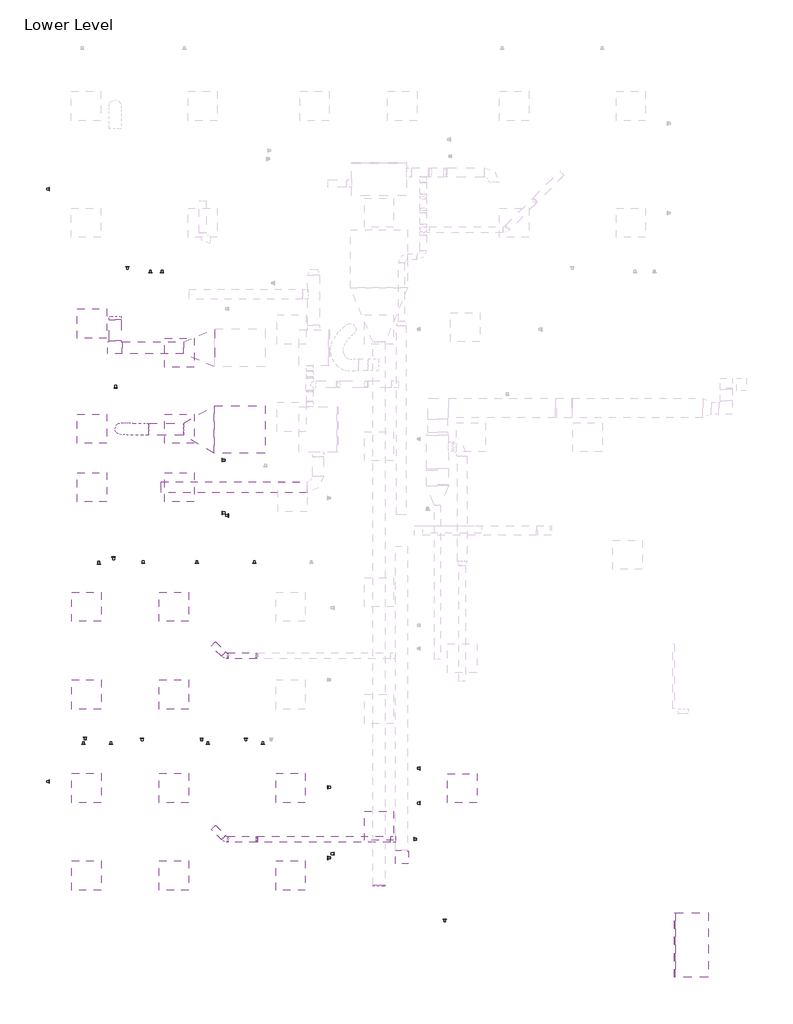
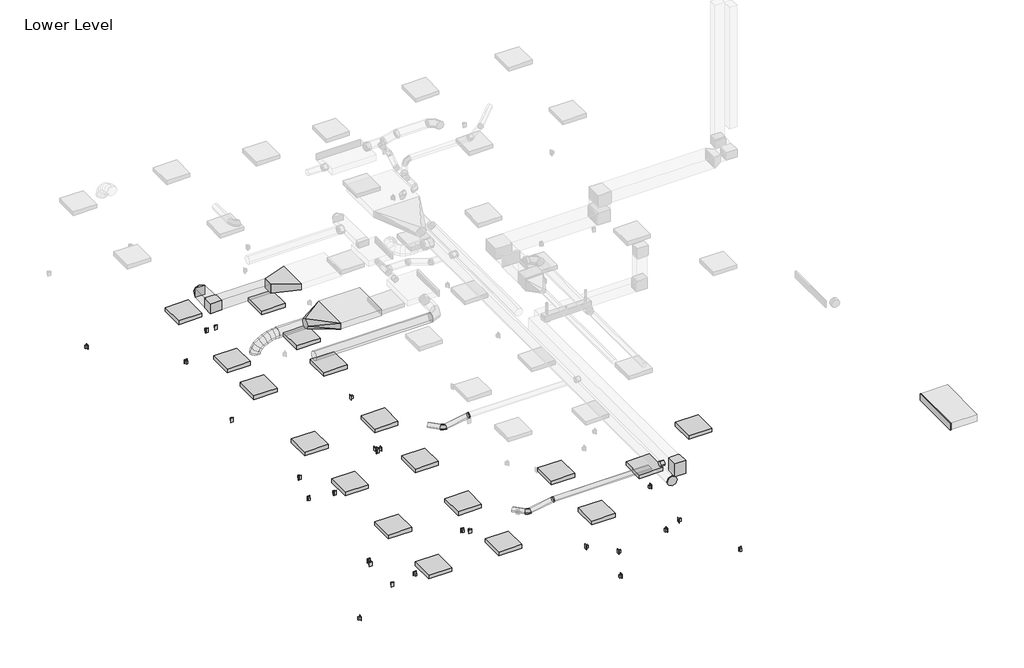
# One storey, part 1 of 4: 23 proxies, 18 light fixtures, 12 duct fittings, 12 duct segments, 6 switching devices.
"""IFC4 building model written with IfcOpenShell, lengths in millimetres."""

from ifc_helpers import new_model, si_unit, point, frame, frame_2d, origin, place, context, project, spatial, polyline, circle_curve, ellipse_curve, trimmed, segment, composite_curve, outline, extrude, transform, mapped, element, save
from ifc_brep_helpers import plane_surface, cylinder_surface, advanced_brep
from components import duplex_receptacle_countertop_10251bba, rectangular_elbow_mitered_standard_7281579c, rectangular_endcap_standard_3ad2bc23, rectangular_tee_standard_e1dfbba3, rectangular_transition_angle_45_degree_29acac8a, rectangular_to_round_transition_angle_45_degree_c2b93fa6, rectangular_to_round_transition_angle_60_degree_fd6f6933, round_elbow_1_d_3b39a11e, round_elbow_1_d_92ecc58d, round_endcap_standard_477732a8, round_takeoff_standard_7fe2b2d5, troffer_corner_insert_2x2_3lamp_e67c7f8f

model = new_model("IFC4")

# Units and contexts
model_context = context("Model", 3, world=origin())
ifc_project = project(units=[si_unit("LENGTHUNIT", "METRE", prefix="MILLI")], contexts=[model_context])

# Site, building, storey
site = spatial("IfcSite", under=ifc_project)
building = spatial("IfcBuilding", under=site)
storey = spatial("IfcBuildingStorey", under=building, Name="Lower Level", Elevation=29972.0)

# Proxies
placement = place(None, origin())
duplex_receptacle_countertop_shape = duplex_receptacle_countertop_10251bba(model_context)
element("IfcBuildingElementProxy", 1, Name="Duplex Receptacle : Countertop", ObjectType="Duplex Receptacle : Countertop", at=placement, inside=storey, context=model_context, shape_type="MappedRepresentation", body=[
    mapped(duplex_receptacle_countertop_shape, transform((-19781.0834068, -33.9304995, 31191.2), x_axis=(1.0, 0.0, 0.0), y_axis=(0.0, 0.0, 1.0), z_axis=(0.0, -1.0, 0.0))),
])
element("IfcBuildingElementProxy", 2, Name="Duplex Receptacle : Countertop", ObjectType="Duplex Receptacle : Countertop", at=placement, inside=storey, context=model_context, shape_type="MappedRepresentation", body=[
    mapped(duplex_receptacle_countertop_shape, transform((-17180.480491, -33.9304995, 31191.2), x_axis=(1.0, 0.0, 0.0), y_axis=(0.0, 0.0, 1.0), z_axis=(0.0, -1.0, 0.0))),
])
element("IfcBuildingElementProxy", 3, Name="Duplex Receptacle : Countertop", ObjectType="Duplex Receptacle : Countertop", at=placement, inside=storey, context=model_context, shape_type="MappedRepresentation", body=[
    mapped(duplex_receptacle_countertop_shape, transform((-17312.5285453, 89.8945005, 31191.2), x_axis=(-1.0, 0.0, 0.0), y_axis=(0.0, 0.0, 1.0), z_axis=(0.0, 1.0, 0.0))),
])
element("IfcBuildingElementProxy", 4, Name="Duplex Receptacle : Countertop", ObjectType="Duplex Receptacle : Countertop", at=placement, inside=storey, context=model_context, shape_type="MappedRepresentation", body=[
    mapped(duplex_receptacle_countertop_shape, transform((-19748.0248951, 108.9445005, 31191.2), x_axis=(-1.0, 0.0, 0.0), y_axis=(0.0, 0.0, 1.0), z_axis=(0.0, 1.0, 0.0))),
])
element("IfcBuildingElementProxy", 5, Name="Duplex Receptacle : Countertop", ObjectType="Duplex Receptacle : Countertop", at=placement, inside=storey, context=model_context, shape_type="MappedRepresentation", body=[
    mapped(duplex_receptacle_countertop_shape, transform((-19461.5177943, 3728.4445005, 31191.2), x_axis=(1.0, 0.0, 0.0), y_axis=(0.0, 0.0, 1.0), z_axis=(0.0, -1.0, 0.0))),
])
element("IfcBuildingElementProxy", 6, Name="Duplex Receptacle : Countertop", ObjectType="Duplex Receptacle : Countertop", at=placement, inside=storey, context=model_context, shape_type="MappedRepresentation", body=[
    mapped(duplex_receptacle_countertop_shape, transform((-17411.8900725, 3747.4945005, 31191.2), x_axis=(1.0, 0.0, 0.0), y_axis=(0.0, 0.0, 1.0), z_axis=(0.0, -1.0, 0.0))),
])
element("IfcBuildingElementProxy", 7, Name="Duplex Receptacle : GFCI", ObjectType="Duplex Receptacle : GFCI", at=placement, inside=storey, context=model_context, shape_type="MappedRepresentation", body=[
    mapped(duplex_receptacle_countertop_shape, transform((-18382.2954607, 9811.7445005, 31191.2), x_axis=(1.0, 0.0, 0.0), y_axis=(0.0, 0.0, 1.0), z_axis=(0.0, -1.0, 0.0))),
])
element("IfcBuildingElementProxy", 8, Name="Duplex Receptacle : Standard", ObjectType="Duplex Receptacle : Standard", at=placement, inside=storey, context=model_context, shape_type="MappedRepresentation", body=[
    mapped(duplex_receptacle_countertop_shape, transform((-12749.8454607, -1263.9483179, 30429.2), x_axis=(0.0, 1.0, 0.0), y_axis=(0.0, 0.0, 1.0), z_axis=(1.0, 0.0, 0.0))),
])
element("IfcBuildingElementProxy", 9, Name="Duplex Receptacle : Standard", ObjectType="Duplex Receptacle : Standard", at=placement, inside=storey, context=model_context, shape_type="MappedRepresentation", body=[
    mapped(duplex_receptacle_countertop_shape, transform((-20500.0204607, -814.4593573, 30429.2), x_axis=(0.0, 1.0, 0.0), y_axis=(0.0, 0.0, 1.0), z_axis=(1.0, 0.0, 0.0))),
])
element("IfcBuildingElementProxy", 10, Name="Duplex Receptacle : Standard", ObjectType="Duplex Receptacle : Standard", at=placement, inside=storey, context=model_context, shape_type="MappedRepresentation", body=[
    mapped(duplex_receptacle_countertop_shape, transform((-14673.8954607, -933.3632015, 30429.2), x_axis=(0.0, -1.0, 0.0), y_axis=(0.0, 0.0, 1.0), z_axis=(-1.0, 0.0, 0.0))),
])
element("IfcBuildingElementProxy", 11, Name="Duplex Receptacle : Standard", ObjectType="Duplex Receptacle : Standard", at=placement, inside=storey, context=model_context, shape_type="MappedRepresentation", body=[
    mapped(duplex_receptacle_countertop_shape, transform((-19208.069205, -33.9304995, 30429.2), x_axis=(1.0, 0.0, 0.0), y_axis=(0.0, 0.0, 1.0), z_axis=(0.0, -1.0, 0.0))),
])
element("IfcBuildingElementProxy", 12, Name="Duplex Receptacle : Standard", ObjectType="Duplex Receptacle : Standard", at=placement, inside=storey, context=model_context, shape_type="MappedRepresentation", body=[
    mapped(duplex_receptacle_countertop_shape, transform((-16034.4520874, -33.9304995, 30429.2), x_axis=(1.0, 0.0, 0.0), y_axis=(0.0, 0.0, 1.0), z_axis=(0.0, -1.0, 0.0))),
])
element("IfcBuildingElementProxy", 13, Name="Duplex Receptacle : Standard", ObjectType="Duplex Receptacle : Standard", at=placement, inside=storey, context=model_context, shape_type="MappedRepresentation", body=[
    mapped(duplex_receptacle_countertop_shape, transform((-18535.8794683, 3747.4945005, 30429.2), x_axis=(1.0, 0.0, 0.0), y_axis=(0.0, 0.0, 1.0), z_axis=(0.0, -1.0, 0.0))),
])
element("IfcBuildingElementProxy", 14, Name="Duplex Receptacle : Standard", ObjectType="Duplex Receptacle : Standard", at=placement, inside=storey, context=model_context, shape_type="MappedRepresentation", body=[
    mapped(duplex_receptacle_countertop_shape, transform((-16210.7641495, 3747.4945005, 30429.2), x_axis=(1.0, 0.0, 0.0), y_axis=(0.0, 0.0, 1.0), z_axis=(0.0, -1.0, 0.0))),
])
element("IfcBuildingElementProxy", 15, Name="Duplex Receptacle : Standard", ObjectType="Duplex Receptacle : Standard", at=placement, inside=storey, context=model_context, shape_type="MappedRepresentation", body=[
    mapped(duplex_receptacle_countertop_shape, transform((-18557.7324838, 89.8945005, 30429.2), x_axis=(-1.0, 0.0, 0.0), y_axis=(0.0, 0.0, 1.0), z_axis=(0.0, 1.0, 0.0))),
])
element("IfcBuildingElementProxy", 16, Name="Duplex Receptacle : Standard", ObjectType="Duplex Receptacle : Standard", at=placement, inside=storey, context=model_context, shape_type="MappedRepresentation", body=[
    mapped(duplex_receptacle_countertop_shape, transform((-16386.8902194, 89.8945005, 30429.2), x_axis=(-1.0, 0.0, 0.0), y_axis=(0.0, 0.0, 1.0), z_axis=(0.0, 1.0, 0.0))),
])
element("IfcBuildingElementProxy", 17, Name="Duplex Receptacle : Standard", ObjectType="Duplex Receptacle : Standard", at=placement, inside=storey, context=model_context, shape_type="MappedRepresentation", body=[
    mapped(duplex_receptacle_countertop_shape, transform((-16880.5204607, 4796.7788164, 30429.2), x_axis=(0.0, -1.0, 0.0), y_axis=(0.0, 0.0, 1.0), z_axis=(-1.0, 0.0, 0.0))),
])
element("IfcBuildingElementProxy", 18, Name="Duplex Receptacle : Standard", ObjectType="Duplex Receptacle : Standard", at=placement, inside=storey, context=model_context, shape_type="MappedRepresentation", body=[
    mapped(duplex_receptacle_countertop_shape, transform((-19152.7856934, 3871.3195005, 30429.2), x_axis=(-1.0, 0.0, 0.0), y_axis=(0.0, 0.0, 1.0), z_axis=(0.0, 1.0, 0.0))),
])
element("IfcBuildingElementProxy", 19, Name="Duplex Receptacle : Standard", ObjectType="Duplex Receptacle : Standard", at=placement, inside=storey, context=model_context, shape_type="MappedRepresentation", body=[
    mapped(duplex_receptacle_countertop_shape, transform((-19108.7076778, 7408.2695005, 30429.2), x_axis=(1.0, 0.0, 0.0), y_axis=(0.0, 0.0, 1.0), z_axis=(0.0, -1.0, 0.0))),
])
element("IfcBuildingElementProxy", 20, Name="Duplex Receptacle : Standard", ObjectType="Duplex Receptacle : Standard", at=placement, inside=storey, context=model_context, shape_type="MappedRepresentation", body=[
    mapped(duplex_receptacle_countertop_shape, transform((-16756.6954607, 4741.681297, 30429.2), x_axis=(0.0, 1.0, 0.0), y_axis=(0.0, 0.0, 1.0), z_axis=(1.0, 0.0, 0.0))),
])
element("IfcBuildingElementProxy", 21, Name="Duplex Receptacle : Standard", ObjectType="Duplex Receptacle : Standard", at=placement, inside=storey, context=model_context, shape_type="MappedRepresentation", body=[
    mapped(duplex_receptacle_countertop_shape, transform((-20500.0204607, 11561.2553968, 30429.2), x_axis=(0.0, 1.0, 0.0), y_axis=(0.0, 0.0, 1.0), z_axis=(1.0, 0.0, 0.0))),
])
element("IfcBuildingElementProxy", 22, Name="Duplex Receptacle : Standard", ObjectType="Duplex Receptacle : Standard", at=placement, inside=storey, context=model_context, shape_type="MappedRepresentation", body=[
    mapped(duplex_receptacle_countertop_shape, transform((-18861.9549075, 9935.5695005, 30429.2), x_axis=(-1.0, 0.0, 0.0), y_axis=(0.0, 0.0, 1.0), z_axis=(0.0, 1.0, 0.0))),
])
element("IfcBuildingElementProxy", 23, Name="Duplex Receptacle : Standard", ObjectType="Duplex Receptacle : Standard", at=placement, inside=storey, context=model_context, shape_type="MappedRepresentation", body=[
    mapped(duplex_receptacle_countertop_shape, transform((-14550.0704607, -2323.3194927, 30429.2), x_axis=(0.0, 1.0, 0.0), y_axis=(0.0, 0.0, 1.0), z_axis=(1.0, 0.0, 0.0))),
])

# Duct fittings
rectangular_elbow_mitered_standard_shape = rectangular_elbow_mitered_standard_7281579c(model_context)
element("IfcDuctFitting", 24, ObjectType="Rectangular Elbow - Mitered : Standard", at=placement, inside=storey, context=model_context, shape_type="MappedRepresentation", body=[
    mapped(rectangular_elbow_mitered_standard_shape, transform((-13138.544811, -2399.3054995, 33020.0), x_axis=(0.0, -1.0, 0.0), y_axis=(1.0, 0.0, 0.0), z_axis=(0.0, 0.0, 1.0))),
])
rectangular_endcap_standard_shape = rectangular_endcap_standard_3ad2bc23(model_context)
element("IfcDuctFitting", 25, ObjectType="Rectangular Endcap : Standard", at=placement, inside=storey, context=model_context, shape_type="MappedRepresentation", body=[
    mapped(rectangular_endcap_standard_shape, transform((-7413.4450089, -4228.1054995, 33617.69375), x_axis=(-1.0, 0.0, 0.0), y_axis=(0.0, -1.0, 0.0), z_axis=(0.0, 0.0, 1.0))),
])
rectangular_tee_standard_shape = rectangular_tee_standard_e1dfbba3(model_context)
element("IfcDuctFitting", 26, ObjectType="Rectangular Tee : Standard", at=placement, inside=storey, context=model_context, shape_type="MappedRepresentation", body=[
    mapped(rectangular_tee_standard_shape, transform((-19120.4829607, 8243.4520797, 33126.0036612), x_axis=(-0.9999999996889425, 0.0, 2.4942236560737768e-05), y_axis=(0.0, -1.0000000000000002, 0.0), z_axis=(2.4942236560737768e-05, 0.0, 0.9999999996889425))),
])
rectangular_transition_angle_45_degree_shape = rectangular_transition_angle_45_degree_29acac8a(model_context)
element("IfcDuctFitting", 27, ObjectType="Rectangular Transition - Angle : 45 Degree", at=placement, inside=storey, context=model_context, shape_type="MappedRepresentation", body=[
    mapped(rectangular_transition_angle_45_degree_shape, transform((-17043.5807568, 8243.4520797, 33125.965625), x_axis=(-0.9999999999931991, 0.0, 3.6880781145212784e-06), y_axis=(0.0, -1.0000000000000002, 0.0), z_axis=(3.6880781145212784e-06, 0.0, 0.9999999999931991))),
])
rectangular_to_round_transition_angle_45_degree_shape = rectangular_to_round_transition_angle_45_degree_c2b93fa6(model_context)
element("IfcDuctFitting", 28, ObjectType="Rectangular to Round Transition - Angle : 45 Degree", at=placement, inside=storey, context=model_context, shape_type="MappedRepresentation", body=[
    mapped(rectangular_to_round_transition_angle_45_degree_shape, transform((-19120.4829607, 8834.9338087, 33126.0036612), x_axis=(0.0, 1.0, 0.0), y_axis=(-1.0, 0.0, 0.0), z_axis=(0.0, 0.0, 1.0))),
])
rectangular_to_round_transition_angle_60_degree_shape = rectangular_to_round_transition_angle_60_degree_fd6f6933(model_context)
element("IfcDuctFitting", 29, ObjectType="Rectangular to Round Transition - Angle : 60 Degree", at=placement, inside=storey, context=model_context, shape_type="MappedRepresentation", body=[
    mapped(rectangular_to_round_transition_angle_60_degree_shape, transform((-17051.2248289, 6541.2842307, 33125.9381059), x_axis=(-0.9999999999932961, 0.0, 3.661651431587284e-06), y_axis=(0.0, -1.0, 0.0), z_axis=(3.661651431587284e-06, 0.0, 0.9999999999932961))),
])
round_elbow_1_d_shape = round_elbow_1_d_3b39a11e(model_context)
element("IfcDuctFitting", 30, ObjectType="Round Elbow : 1 D", at=placement, inside=storey, context=model_context, shape_type="MappedRepresentation", body=[
    mapped(round_elbow_1_d_shape, transform((-16158.3431706, -2023.2439528, 32918.4), x_axis=(-1.0, 0.0, 0.0), y_axis=(0.0, 0.0, -1.0), z_axis=(0.0, -1.0, 0.0))),
])
element("IfcDuctFitting", 31, ObjectType="Round Elbow : 1 D", at=placement, inside=storey, context=model_context, shape_type="MappedRepresentation", body=[
    mapped(round_elbow_1_d_shape, transform((-16158.3431706, 1810.3913908, 32918.4), x_axis=(-1.0, 0.0, 0.0), y_axis=(0.0, 0.0, -1.0), z_axis=(0.0, -1.0, 0.0))),
])
round_elbow_1_d_2_shape = round_elbow_1_d_92ecc58d(model_context)
element("IfcDuctFitting", 32, ObjectType="Round Elbow : 1 D", at=placement, inside=storey, context=model_context, shape_type="MappedRepresentation", body=[
    mapped(round_elbow_1_d_2_shape, transform((-16816.8445074, -2023.2439528, 32809.259375), x_axis=(0.7071067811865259, -0.7071067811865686, -2.8639103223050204e-08), y_axis=(0.6884479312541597, 0.6884479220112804, 0.22820802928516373), z_axis=(-0.1613674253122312, -0.16136746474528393, 0.9736123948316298))),
])
element("IfcDuctFitting", 33, ObjectType="Round Elbow : 1 D", at=placement, inside=storey, context=model_context, shape_type="MappedRepresentation", body=[
    mapped(round_elbow_1_d_2_shape, transform((-16816.8445074, 1810.3913908, 32809.259375), x_axis=(0.7071067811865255, -0.707106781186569, -2.8639103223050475e-08), y_axis=(0.6884479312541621, 0.6884479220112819, 0.22820802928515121), z_axis=(-0.16136742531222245, -0.161367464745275, 0.9736123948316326))),
])
round_endcap_standard_shape = round_endcap_standard_477732a8(model_context)
element("IfcDuctFitting", 34, ObjectType="Round Endcap : Standard", at=placement, inside=storey, context=model_context, shape_type="MappedRepresentation", body=[
    mapped(round_endcap_standard_shape, transform((-13605.5079607, -2974.1916692, 33125.9395828), x_axis=(0.0, -0.9999999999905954, 4.3369790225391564e-06), y_axis=(1.0000000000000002, 0.0, 0.0), z_axis=(0.0, 4.3369790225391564e-06, 0.9999999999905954))),
])
round_takeoff_standard_shape = round_takeoff_standard_7fe2b2d5(model_context)
element("IfcDuctFitting", 35, ObjectType="Round Takeoff : Standard", at=placement, inside=storey, context=model_context, shape_type="MappedRepresentation", body=[
    mapped(round_takeoff_standard_shape, transform((-13265.544811, -2023.2439528, 32918.4), x_axis=(-1.0, 0.0, 0.0), y_axis=(0.0, 1.0, 0.0), z_axis=(0.0, 0.0, -1.0))),
])

# Duct segments
element("IfcDuctSegment", 36, ObjectType="Flex - Round", at=placement, inside=storey, context=model_context, shape_type="AdvancedBrep", body=[
    advanced_brep(
    [(-18422.8248284, 6414.2842307, 33125.9381059), (-18422.8228218, 6541.2842307, 32998.9381059), (-18422.8248284, 6668.2842307, 33125.9381059), (-18422.826835, 6541.2842307, 33252.9381059), (-18433.152275, 6414.2842307, 33125.9379427), (-18427.213179, 6541.2842307, 32998.9380365), (-18432.1738135, 6668.2842307, 33125.9379582), (-18438.1129095, 6541.2842307, 33252.9378644), (-18998.2468091, 6427.2342279, 32769.175), (-19122.0307333, 6557.370849, 32769.175), (-18991.8941123, 6681.1547731, 32769.175), (-18868.1101881, 6551.0181521, 32769.175), (-18526.8562618, 6415.0075083, 33117.8823605), (-18506.4861488, 6541.8961189, 32992.1230658), (-18523.77087, 6668.9912454, 33118.0635054), (-18544.140983, 6542.1026349, 33243.8228001), (-18637.0590968, 6416.8674274, 33094.2470375), (-18599.9246736, 6543.4731028, 32972.0832029), (-18632.1256758, 6670.8199749, 33094.8245313), (-18669.260099, 6544.2142995, 33216.9883659), (-18745.4744577, 6419.4025492, 33055.8194408), (-18691.0924105, 6545.6049162, 32939.7689901), (-18739.4042775, 6673.3285154, 33056.7998564), (-18793.7863247, 6547.1261484, 33172.850307), (-18843.9578998, 6422.158337, 33003.3326321), (-18769.8918529, 6547.8099015, 32897.7727808), (-18837.3072758, 6676.068061, 33004.6223956), (-18911.3733226, 6550.4164965, 33110.182247), (-18924.3293294, 6424.6818602, 32937.5333655), (-18826.6789675, 6549.5929182, 32851.2817514), (-18917.57092, 6678.5882, 32938.9113718), (-19015.2212819, 6553.677142, 33025.1629859), (-18978.4517799, 6426.5228686, 32859.1793234), (-18859.8184682, 6550.7201787, 32803.305102), (-18971.8883329, 6680.4358402, 32860.2750791), (-19090.5216446, 6556.2385301, 32916.1493004), (-18998.2468091, 6427.2342279, 32796.2388616), (-18868.1101881, 6551.0181521, 32776.940671), (-18991.8941123, 6681.1547731, 32796.6645143), (-19122.0307333, 6557.370849, 32815.9627049)],
    [
        (0, 1, circle_curve(frame((-18422.8248284, 6541.2842307, 33125.9381059), z_axis=(0.9999999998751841, 0.0, 1.5799743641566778e-05), x_axis=(0.0, -1.0, 0.0)), 127.0)),
        (1, 2, circle_curve(frame((-18422.8248284, 6541.2842307, 33125.9381059), z_axis=(0.9999999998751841, 0.0, 1.5799743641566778e-05), x_axis=(0.0, -1.0, 0.0)), 127.0)),
        (2, 3, circle_curve(frame((-18422.8248284, 6541.2842307, 33125.9381059), z_axis=(0.9999999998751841, 0.0, 1.5799743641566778e-05), x_axis=(0.0, -1.0, 0.0)), 127.0)),
        (3, 0, circle_curve(frame((-18422.8248284, 6541.2842307, 33125.9381059), z_axis=(0.9999999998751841, 0.0, 1.5799743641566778e-05), x_axis=(0.0, -1.0, 0.0)), 127.0)),
        (0, 4),
        (4, 5, ellipse_curve(frame((-18432.6630442, 6541.2842307, 33125.9379505), z_axis=(0.999073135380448, -0.003848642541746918, 0.04287257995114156), x_axis=(0.0430449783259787, 0.08935961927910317, -0.9950688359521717)), 127.1177348, 127.0)),
        (5, 1),
        (5, 6, ellipse_curve(frame((-18432.6630442, 6541.2842307, 33125.9379505), z_axis=(0.999073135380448, -0.003848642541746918, 0.04287257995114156), x_axis=(0.0430449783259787, 0.08935961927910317, -0.9950688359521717)), 127.1177348, 127.0)),
        (6, 2),
        (6, 7, ellipse_curve(frame((-18432.6630442, 6541.2842307, 33125.9379505), z_axis=(0.999073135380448, -0.003848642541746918, 0.04287257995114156), x_axis=(0.0430449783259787, 0.08935961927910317, -0.9950688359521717)), 127.1177348, 127.0)),
        (7, 3),
        (7, 4, ellipse_curve(frame((-18432.6630442, 6541.2842307, 33125.9379505), z_axis=(0.999073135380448, -0.003848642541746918, 0.04287257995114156), x_axis=(0.0430449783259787, 0.08935961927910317, -0.9950688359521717)), 127.1177348, 127.0)),
        (8, 9, circle_curve(frame((-18995.0704607, 6554.1945005, 32769.175), z_axis=(0.0, 0.0, -1.0), x_axis=(-0.02501061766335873, -0.9996871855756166, 0.0)), 127.0)),
        (9, 10, circle_curve(frame((-18995.0704607, 6554.1945005, 32769.175), z_axis=(0.0, 0.0, -1.0), x_axis=(-0.02501061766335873, -0.9996871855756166, 0.0)), 127.0)),
        (10, 11, circle_curve(frame((-18995.0704607, 6554.1945005, 32769.175), z_axis=(0.0, 0.0, -1.0), x_axis=(-0.02501061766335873, -0.9996871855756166, 0.0)), 127.0)),
        (11, 8, circle_curve(frame((-18995.0704607, 6554.1945005, 32769.175), z_axis=(0.0, 0.0, -1.0), x_axis=(-0.02501061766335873, -0.9996871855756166, 0.0)), 127.0)),
        (4, 12),
        (12, 13, ellipse_curve(frame((-18525.3135659, 6541.9993769, 33117.9729329), z_axis=(0.9889199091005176, -0.012118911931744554, 0.14795453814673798), x_axis=(0.1484415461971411, 0.0700677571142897, -0.9864358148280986)), 127.251696, 127.0)),
        (13, 5),
        (13, 14, ellipse_curve(frame((-18525.3135659, 6541.9993769, 33117.9729329), z_axis=(0.9889199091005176, -0.012118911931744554, 0.14795453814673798), x_axis=(0.1484415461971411, 0.0700677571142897, -0.9864358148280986)), 127.251696, 127.0)),
        (14, 6),
        (14, 15, ellipse_curve(frame((-18525.3135659, 6541.9993769, 33117.9729329), z_axis=(0.9889199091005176, -0.012118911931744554, 0.14795453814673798), x_axis=(0.1484415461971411, 0.0700677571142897, -0.9864358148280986)), 127.251696, 127.0)),
        (15, 7),
        (15, 12, ellipse_curve(frame((-18525.3135659, 6541.9993769, 33117.9729329), z_axis=(0.9889199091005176, -0.012118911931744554, 0.14795453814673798), x_axis=(0.1484415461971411, 0.0700677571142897, -0.9864358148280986)), 127.251696, 127.0)),
        (12, 16),
        (16, 17, ellipse_curve(frame((-18634.5923863, 6543.8437011, 33094.5357844), z_axis=(0.9619880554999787, -0.01930756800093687, 0.27240814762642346), x_axis=(0.27300431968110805, 0.042784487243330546, -0.9610609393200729)), 127.2665098, 127.0)),
        (17, 13),
        (17, 18, ellipse_curve(frame((-18634.5923863, 6543.8437011, 33094.5357844), z_axis=(0.9619880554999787, -0.01930756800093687, 0.27240814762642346), x_axis=(0.27300431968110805, 0.042784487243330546, -0.9610609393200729)), 127.2665098, 127.0)),
        (18, 14),
        (18, 19, ellipse_curve(frame((-18634.5923863, 6543.8437011, 33094.5357844), z_axis=(0.9619880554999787, -0.01930756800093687, 0.27240814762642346), x_axis=(0.27300431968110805, 0.042784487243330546, -0.9610609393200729)), 127.2665098, 127.0)),
        (19, 15),
        (19, 16, ellipse_curve(frame((-18634.5923863, 6543.8437011, 33094.5357844), z_axis=(0.9619880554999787, -0.01930756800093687, 0.27240814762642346), x_axis=(0.27300431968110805, 0.042784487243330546, -0.9610609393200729)), 127.2665098, 127.0)),
        (16, 20),
        (20, 21, ellipse_curve(frame((-18742.4393676, 6546.3655323, 33056.3096486), z_axis=(0.9148074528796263, -0.023425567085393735, 0.40321032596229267), x_axis=(0.4036389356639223, 0.0178143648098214, -0.914744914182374)), 127.3533068, 127.0)),
        (21, 17),
        (21, 22, ellipse_curve(frame((-18742.4393676, 6546.3655323, 33056.3096486), z_axis=(0.9148074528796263, -0.023425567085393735, 0.40321032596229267), x_axis=(0.4036389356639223, 0.0178143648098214, -0.914744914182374)), 127.3533068, 127.0)),
        (22, 18),
        (22, 23, ellipse_curve(frame((-18742.4393676, 6546.3655323, 33056.3096486), z_axis=(0.9148074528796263, -0.023425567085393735, 0.40321032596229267), x_axis=(0.4036389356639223, 0.0178143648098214, -0.914744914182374)), 127.3533068, 127.0)),
        (23, 19),
        (23, 20, ellipse_curve(frame((-18742.4393676, 6546.3655323, 33056.3096486), z_axis=(0.9148074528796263, -0.023425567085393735, 0.40321032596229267), x_axis=(0.4036389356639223, 0.0178143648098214, -0.914744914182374)), 127.3533068, 127.0)),
        (20, 24),
        (24, 25, ellipse_curve(frame((-18840.6325878, 6549.113199, 33003.9775139), z_axis=(0.8318846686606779, -0.02460559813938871, 0.5544027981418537), x_axis=(0.5545278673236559, -0.0020352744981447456, -0.8321626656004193)), 127.6142862, 127.0)),
        (25, 21),
        (25, 26, ellipse_curve(frame((-18840.6325878, 6549.113199, 33003.9775139), z_axis=(0.8318846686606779, -0.02460559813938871, 0.5544027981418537), x_axis=(0.5545278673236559, -0.0020352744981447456, -0.8321626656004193)), 127.6142862, 127.0)),
        (26, 22),
        (26, 27, ellipse_curve(frame((-18840.6325878, 6549.113199, 33003.9775139), z_axis=(0.8318846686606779, -0.02460559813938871, 0.5544027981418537), x_axis=(0.5545278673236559, -0.0020352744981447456, -0.8321626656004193)), 127.6142862, 127.0)),
        (27, 23),
        (27, 24, ellipse_curve(frame((-18840.6325878, 6549.113199, 33003.9775139), z_axis=(0.8318846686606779, -0.02460559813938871, 0.5544027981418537), x_axis=(0.5545278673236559, -0.0020352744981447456, -0.8321626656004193)), 127.6142862, 127.0)),
        (24, 28),
        (28, 29, ellipse_curve(frame((-18920.9501247, 6551.6350301, 32938.2223686), z_axis=(0.6775254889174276, -0.022024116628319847, 0.7351694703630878), x_axis=(0.7349668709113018, -0.017752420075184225, -0.6778705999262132)), 128.2571375, 127.0)),
        (29, 25),
        (29, 30, ellipse_curve(frame((-18920.9501247, 6551.6350301, 32938.2223686), z_axis=(0.6775254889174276, -0.022024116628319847, 0.7351694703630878), x_axis=(0.7349668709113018, -0.017752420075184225, -0.6778705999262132)), 128.2571375, 127.0)),
        (30, 26),
        (30, 31, ellipse_curve(frame((-18920.9501247, 6551.6350301, 32938.2223686), z_axis=(0.6775254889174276, -0.022024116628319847, 0.7351694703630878), x_axis=(0.7349668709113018, -0.017752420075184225, -0.6778705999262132)), 128.2571375, 127.0)),
        (31, 27),
        (31, 28, ellipse_curve(frame((-18920.9501247, 6551.6350301, 32938.2223686), z_axis=(0.6775254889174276, -0.022024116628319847, 0.7351694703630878), x_axis=(0.7349668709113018, -0.017752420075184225, -0.6778705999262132)), 128.2571375, 127.0)),
        (28, 32),
        (32, 33, ellipse_curve(frame((-18975.1700564, 6553.4793544, 32859.7272012), z_axis=(0.4390412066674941, -0.015225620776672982, 0.8983379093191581), x_axis=(0.8978827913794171, -0.028613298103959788, -0.43930373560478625)), 128.4409374, 127.0)),
        (33, 29),
        (33, 34, ellipse_curve(frame((-18975.1700564, 6553.4793544, 32859.7272012), z_axis=(0.4390412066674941, -0.015225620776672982, 0.8983379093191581), x_axis=(0.8978827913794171, -0.028613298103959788, -0.43930373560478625)), 128.4409374, 127.0)),
        (34, 30),
        (34, 35, ellipse_curve(frame((-18975.1700564, 6553.4793544, 32859.7272012), z_axis=(0.4390412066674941, -0.015225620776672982, 0.8983379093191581), x_axis=(0.8978827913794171, -0.028613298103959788, -0.43930373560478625)), 128.4409374, 127.0)),
        (35, 31),
        (35, 32, ellipse_curve(frame((-18975.1700564, 6553.4793544, 32859.7272012), z_axis=(0.4390412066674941, -0.015225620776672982, 0.8983379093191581), x_axis=(0.8978827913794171, -0.028613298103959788, -0.43930373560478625)), 128.4409374, 127.0)),
        (32, 36),
        (36, 37, ellipse_curve(frame((-18995.0704607, 6554.1945005, 32796.4516879), z_axis=(0.1517593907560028, -0.005453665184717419, 0.9884024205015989), x_axis=(0.9877648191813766, -0.03549657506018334, -0.15185735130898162)), 128.490175, 127.0)),
        (37, 33),
        (37, 38, ellipse_curve(frame((-18995.0704607, 6554.1945005, 32796.4516879), z_axis=(0.1517593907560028, -0.005453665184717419, 0.9884024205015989), x_axis=(0.9877648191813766, -0.03549657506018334, -0.15185735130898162)), 128.490175, 127.0)),
        (38, 34),
        (38, 39, ellipse_curve(frame((-18995.0704607, 6554.1945005, 32796.4516879), z_axis=(0.1517593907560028, -0.005453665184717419, 0.9884024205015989), x_axis=(0.9877648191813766, -0.03549657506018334, -0.15185735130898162)), 128.490175, 127.0)),
        (39, 35),
        (39, 36, ellipse_curve(frame((-18995.0704607, 6554.1945005, 32796.4516879), z_axis=(0.1517593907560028, -0.005453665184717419, 0.9884024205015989), x_axis=(0.9877648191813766, -0.03549657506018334, -0.15185735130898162)), 128.490175, 127.0)),
        (36, 8),
        (11, 37),
        (10, 38),
        (9, 39),
    ],
    [
        plane_surface(frame((-18422.8228218, 6541.2842307, 32998.9381059), z_axis=(0.9999999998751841, 0.0, 1.5799743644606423e-05), x_axis=(0.0, -1.0, 0.0))),
        cylinder_surface(frame((-18422.8248284, 6541.2842307, 33125.9381059), z_axis=(0.9999999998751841, 0.0, 1.5799743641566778e-05), x_axis=(0.0, -1.0, 0.0)), 127.0),
        plane_surface(frame((-18995.0704607, 6427.1945005, 32769.175), z_axis=(0.0, 0.0, -1.0), x_axis=(-1.0, 0.0, 0.0))),
        cylinder_surface(frame((-18432.6630442, 6541.2842307, 33125.9379505), z_axis=(0.996295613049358, -0.0076901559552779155, 0.08564994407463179), x_axis=(-0.00769015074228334, -0.9999703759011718, -0.0003300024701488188)), 127.0),
        cylinder_surface(frame((-18525.3135659, 6541.9993769, 33117.9729329), z_axis=(0.9776321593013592, -0.016499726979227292, 0.2096738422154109), x_axis=(-0.016520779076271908, -0.9998621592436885, -0.0016511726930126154)), 127.0),
        cylinder_surface(frame((-18634.5923863, 6543.8437011, 33094.5357844), z_axis=(0.9423149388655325, -0.022034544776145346, 0.3340015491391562), x_axis=(-0.02222021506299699, -0.9997477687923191, -0.0032650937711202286)), 127.0),
        cylinder_surface(frame((-18742.4393676, 6546.3655323, 33056.3096486), z_axis=(0.8822242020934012, -0.02468661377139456, 0.47018190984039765), x_axis=(-0.025469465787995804, -0.9996645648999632, -0.004697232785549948)), 127.0),
        cylinder_surface(frame((-18840.6325878, 6549.113199, 33003.9775139), z_axis=(0.7735363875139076, -0.024287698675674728, 0.6332863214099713), x_axis=(-0.026809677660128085, -0.9996249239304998, -0.005590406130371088)), 127.0),
        cylinder_surface(frame((-18920.9501247, 6551.6350301, 32938.2223686), z_axis=(0.5682327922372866, -0.019328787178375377, 0.8226408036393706), x_axis=(-0.026459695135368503, -0.9996363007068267, -0.005210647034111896)), 127.0),
        cylinder_surface(frame((-18975.1700564, 6553.4793544, 32859.7272012), z_axis=(0.2999986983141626, -0.010780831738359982, 0.9538786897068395), x_axis=(-0.025513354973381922, -0.999669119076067, -0.0032743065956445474)), 127.0),
        cylinder_surface(frame((-18995.0704607, 6554.1945005, 32796.4516879), z_axis=(0.0, 0.0, 1.0000000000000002), x_axis=(-0.02501061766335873, -0.9996871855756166, 0.0)), 127.0),
    ],
    [
        (0, [[1, 2, 3, 4]]),
        (1, [[-1, 5, 6, 7]]),
        (1, [[-2, -7, 8, 9]]),
        (1, [[-3, -9, 10, 11]]),
        (1, [[-4, -11, 12, -5]]),
        (2, [[13, 14, 15, 16]]),
        (3, [[-6, 17, 18, 19]]),
        (3, [[-8, -19, 20, 21]]),
        (3, [[-10, -21, 22, 23]]),
        (3, [[-12, -23, 24, -17]]),
        (4, [[-18, 25, 26, 27]]),
        (4, [[-20, -27, 28, 29]]),
        (4, [[-22, -29, 30, 31]]),
        (4, [[-24, -31, 32, -25]]),
        (5, [[-26, 33, 34, 35]]),
        (5, [[-28, -35, 36, 37]]),
        (5, [[-30, -37, 38, 39]]),
        (5, [[-32, -39, 40, -33]]),
        (6, [[-34, 41, 42, 43]]),
        (6, [[-36, -43, 44, 45]]),
        (6, [[-38, -45, 46, 47]]),
        (6, [[-40, -47, 48, -41]]),
        (7, [[-42, 49, 50, 51]]),
        (7, [[-44, -51, 52, 53]]),
        (7, [[-46, -53, 54, 55]]),
        (7, [[-48, -55, 56, -49]]),
        (8, [[-50, 57, 58, 59]]),
        (8, [[-52, -59, 60, 61]]),
        (8, [[-54, -61, 62, 63]]),
        (8, [[-56, -63, 64, -57]]),
        (9, [[-58, 65, 66, 67]]),
        (9, [[-60, -67, 68, 69]]),
        (9, [[-62, -69, 70, 71]]),
        (9, [[-64, -71, 72, -65]]),
        (10, [[-66, 73, -16, 74]]),
        (10, [[-68, -74, -15, 75]]),
        (10, [[-70, -75, -14, 76]]),
        (10, [[-72, -76, -13, -73]]),
    ],
),
])
element("IfcDuctSegment", 37, ObjectType="Mitered Elbows / Taps", at=placement, inside=storey, context=model_context, shape_type="SweptSolid", body=[
    extrude(outline(polyline([(0.0, -990.6), (0.0, 0.0), (1066.7996217, 0.0), (1066.7996217, -990.6), (0.0, -990.6)])), frame((-17051.2251383, 7036.5842307, 33041.4381059), z_axis=(3.661651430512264e-06, 0.0, 0.9999999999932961), x_axis=(0.9999999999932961, 0.0, -3.661651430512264e-06)), (0.0, 0.0, 1.0), 169.0),
])
element("IfcDuctSegment", 38, ObjectType="Mitered Elbows / Taps", at=placement, inside=storey, context=model_context, shape_type="SweptSolid", body=[
    extrude(outline(polyline([(-6725.0018914, -3550.2429995), (-6725.0018914, -4905.9679995), (-7413.4450089, -4905.9679995), (-7413.4450089, -3550.2429995), (-6725.0018914, -3550.2429995)])), frame((0.0, 0.0, 33528.0), z_axis=(0.0, 0.0, 1.0), x_axis=(1.0, 0.0, 0.0)), (0.0, 0.0, 1.0), 179.3875),
])
element("IfcDuctSegment", 39, ObjectType="Mitered Elbows / Tees", at=placement, inside=storey, context=model_context, shape_type="SweptSolid", body=[
    extrude(outline(polyline([(0.0, -254.0), (0.0, 0.0), (1276.7988832, 0.0), (1276.7988832, -254.0), (0.0, -254.0)])), frame((-17691.2872456, 8116.4520797, 32998.9680138), z_axis=(2.494223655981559e-05, 0.0, 0.9999999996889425), x_axis=(-0.9999999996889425, 0.0, 2.494223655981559e-05)), (0.0, 0.0, 1.0), 254.0),
])
element("IfcDuctSegment", 40, ObjectType="Radius Elbows / Taps", at=placement, inside=storey, context=model_context, shape_type="SweptSolid", body=[
    extrude(outline(polyline([(-18993.4829607, 8395.8520797), (-19247.4829607, 8395.8520797), (-19247.4829607, 8834.9338087), (-18993.4829607, 8834.9338087), (-18993.4829607, 8395.8520797)])), frame((0.0, 0.0, 32999.0036612), z_axis=(0.0, 0.0, 1.0), x_axis=(1.0, 0.0, 0.0)), (0.0, 0.0, 1.0), 254.0),
])
element("IfcDuctSegment", 41, ObjectType="Taps / Short Radius", at=placement, inside=storey, context=model_context, shape_type="SweptSolid", body=[
    extrude(outline(composite_curve([segment(trimmed(circle_curve(frame_2d((0.0, -127.0)), 127.0), [point((-127.0, -127.0))], [point((0.0, 0.0))], False, "CARTESIAN"), True, "CONTINUOUS"), segment(trimmed(circle_curve(frame_2d((0.0, -127.0)), 127.0), [point((0.0, 0.0))], [point((127.0, -127.0))], False, "CARTESIAN"), True, "CONTINUOUS"), segment(trimmed(circle_curve(frame_2d((0.0, -127.0)), 127.0), [point((127.0, -127.0))], [point((0.0, -254.0))], False, "CARTESIAN"), True, "CONTINUOUS"), segment(trimmed(circle_curve(frame_2d((0.0, -127.0)), 127.0), [point((0.0, -254.0))], [point((-127.0, -127.0))], False, "CARTESIAN"), True, "CONTINUOUS")], self_intersect=False)), frame((-18422.8228218, 6541.2842307, 32998.9381059), z_axis=(0.9999999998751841, 0.0, 1.5799743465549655e-05), x_axis=(0.0, -1.0, 0.0)), (0.0, 0.0, 1.0), 733.6856872),
])
element("IfcDuctSegment", 42, ObjectType="Taps / Short Radius", at=placement, inside=storey, context=model_context, shape_type="SweptSolid", body=[
    extrude(outline(composite_curve([segment(trimmed(circle_curve(frame_2d((5334.9945005, 33121.6)), 114.3), [point((5220.6945005, 33121.6))], [point((5334.9945005, 33235.9))], False, "CARTESIAN"), True, "CONTINUOUS"), segment(trimmed(circle_curve(frame_2d((5334.9945005, 33121.6)), 114.3), [point((5334.9945005, 33235.9))], [point((5449.2945005, 33121.6))], False, "CARTESIAN"), True, "CONTINUOUS"), segment(trimmed(circle_curve(frame_2d((5334.9945005, 33121.6)), 114.3), [point((5449.2945005, 33121.6))], [point((5334.9945005, 33007.3))], False, "CARTESIAN"), True, "CONTINUOUS"), segment(trimmed(circle_curve(frame_2d((5334.9945005, 33121.6)), 114.3), [point((5334.9945005, 33007.3))], [point((5220.6945005, 33121.6))], False, "CARTESIAN"), True, "CONTINUOUS")], self_intersect=False)), frame((-18156.8704607, 0.0, 0.0), z_axis=(1.0, 0.0, 0.0), x_axis=(0.0, 1.0, 0.0)), (0.0, 0.0, 1.0), 3047.1367579),
])
element("IfcDuctSegment", 43, ObjectType="Taps / Short Radius", at=placement, inside=storey, context=model_context, shape_type="SweptSolid", body=[
    extrude(outline(composite_curve([segment(trimmed(circle_curve(frame_2d((-2023.2439528, 32918.4)), 63.5), [point((-2086.7439528, 32918.4))], [point((-2023.2439528, 32981.9))], False, "CARTESIAN"), True, "CONTINUOUS"), segment(trimmed(circle_curve(frame_2d((-2023.2439528, 32918.4)), 63.5), [point((-2023.2439528, 32981.9))], [point((-1959.7439528, 32918.4))], False, "CARTESIAN"), True, "CONTINUOUS"), segment(trimmed(circle_curve(frame_2d((-2023.2439528, 32918.4)), 63.5), [point((-1959.7439528, 32918.4))], [point((-2023.2439528, 32854.9))], False, "CARTESIAN"), True, "CONTINUOUS"), segment(trimmed(circle_curve(frame_2d((-2023.2439528, 32918.4)), 63.5), [point((-2023.2439528, 32854.9))], [point((-2086.7439528, 32918.4))], False, "CARTESIAN"), True, "CONTINUOUS")], self_intersect=False)), frame((-16147.8899229, 0.0, 0.0), z_axis=(1.0, 0.0, 0.0), x_axis=(0.0, 1.0, 0.0)), (0.0, 0.0, 1.0), 2780.7451119),
])
element("IfcDuctSegment", 44, ObjectType="Taps / Short Radius", at=placement, inside=storey, context=model_context, shape_type="SweptSolid", body=[
    extrude(outline(composite_curve([segment(trimmed(circle_curve(frame_2d((0.0, -63.5)), 63.5), [point((-63.5, -63.5))], [point((0.0, 0.0))], False, "CARTESIAN"), True, "CONTINUOUS"), segment(trimmed(circle_curve(frame_2d((0.0, -63.5)), 63.5), [point((0.0, 0.0))], [point((63.5, -63.5))], False, "CARTESIAN"), True, "CONTINUOUS"), segment(trimmed(circle_curve(frame_2d((0.0, -63.5)), 63.5), [point((63.5, -63.5))], [point((0.0, -127.0))], False, "CARTESIAN"), True, "CONTINUOUS"), segment(trimmed(circle_curve(frame_2d((0.0, -63.5)), 63.5), [point((0.0, -127.0))], [point((-63.5, -63.5))], False, "CARTESIAN"), True, "CONTINUOUS")], self_intersect=False)), frame((-16854.7472091, -1985.3412511, 32745.7593852), z_axis=(-0.7071067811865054, 0.7071067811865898, 0.0), x_axis=(0.7071067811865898, 0.7071067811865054, 0.0)), (0.0, 0.0, 1.0), 303.9966937),
])
element("IfcDuctSegment", 45, ObjectType="Taps / Short Radius", at=placement, inside=storey, context=model_context, shape_type="SweptSolid", body=[
    extrude(outline(composite_curve([segment(trimmed(circle_curve(frame_2d((0.0, -63.5)), 63.5), [point((0.0, 0.0))], [point((63.5000001, -63.5))], False, "CARTESIAN"), True, "CONTINUOUS"), segment(trimmed(circle_curve(frame_2d((0.0, -63.5)), 63.5), [point((63.5000001, -63.5))], [point((0.0, -127.0))], False, "CARTESIAN"), True, "CONTINUOUS"), segment(trimmed(circle_curve(frame_2d((0.0, -63.5)), 63.5), [point((0.0, -127.0))], [point((-63.5, -63.5))], False, "CARTESIAN"), True, "CONTINUOUS"), segment(trimmed(circle_curve(frame_2d((0.0, -63.5)), 63.5), [point((-63.5, -63.5))], [point((0.0, 0.0))], False, "CARTESIAN"), True, "CONTINUOUS")], self_intersect=False)), frame((-16763.9633954, -1959.7439528, 32818.0239398), z_axis=(0.9865416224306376, 0.0, 0.16351032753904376), x_axis=(0.16351032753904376, 0.0, -0.9865416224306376)), (0.0, 0.0, 1.0), 603.428834),
])
element("IfcDuctSegment", 46, ObjectType="Taps / Short Radius", at=placement, inside=storey, context=model_context, shape_type="SweptSolid", body=[
    extrude(outline(composite_curve([segment(trimmed(circle_curve(frame_2d((0.0, -63.5)), 63.5), [point((-63.5, -63.5))], [point((0.0, 0.0))], False, "CARTESIAN"), True, "CONTINUOUS"), segment(trimmed(circle_curve(frame_2d((0.0, -63.5)), 63.5), [point((0.0, 0.0))], [point((63.5, -63.5))], False, "CARTESIAN"), True, "CONTINUOUS"), segment(trimmed(circle_curve(frame_2d((0.0, -63.5)), 63.5), [point((63.5, -63.5))], [point((0.0, -127.0))], False, "CARTESIAN"), True, "CONTINUOUS"), segment(trimmed(circle_curve(frame_2d((0.0, -63.5)), 63.5), [point((0.0, -127.0))], [point((-63.5, -63.5))], False, "CARTESIAN"), True, "CONTINUOUS")], self_intersect=False)), frame((-16854.7472091, 1848.2940925, 32745.7593852), z_axis=(-0.7071067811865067, 0.7071067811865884, 0.0), x_axis=(0.7071067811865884, 0.7071067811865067, 0.0)), (0.0, 0.0, 1.0), 303.9966937),
])
element("IfcDuctSegment", 47, ObjectType="Taps / Short Radius", at=placement, inside=storey, context=model_context, shape_type="SweptSolid", body=[
    extrude(outline(composite_curve([segment(trimmed(circle_curve(frame_2d((0.0, -63.5)), 63.5), [point((0.0, 0.0))], [point((63.5000001, -63.5))], False, "CARTESIAN"), True, "CONTINUOUS"), segment(trimmed(circle_curve(frame_2d((0.0, -63.5)), 63.5), [point((63.5000001, -63.5))], [point((0.0, -127.0))], False, "CARTESIAN"), True, "CONTINUOUS"), segment(trimmed(circle_curve(frame_2d((0.0, -63.5)), 63.5), [point((0.0, -127.0))], [point((-63.5, -63.5))], False, "CARTESIAN"), True, "CONTINUOUS"), segment(trimmed(circle_curve(frame_2d((0.0, -63.5)), 63.5), [point((-63.5, -63.5))], [point((0.0, 0.0))], False, "CARTESIAN"), True, "CONTINUOUS")], self_intersect=False)), frame((-16763.9633954, 1873.8913908, 32818.0239398), z_axis=(0.9865416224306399, 0.0, 0.16351032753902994), x_axis=(0.16351032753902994, 0.0, -0.9865416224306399)), (0.0, 0.0, 1.0), 603.428834),
])

# Light fixtures
troffer_corner_insert_2x2_3lamp_shape = troffer_corner_insert_2x2_3lamp_e67c7f8f(model_context)
element("IfcLightFixture", 48, ObjectType="Troffer Corner Insert : 2x2 3Lamp", at=placement, inside=storey, context=model_context, shape_type="MappedRepresentation", body=[
    mapped(troffer_corner_insert_2x2_3lamp_shape, transform((-11866.4513201, -951.5054995, 30276.8), x_axis=(1.0, 0.0, 0.0), y_axis=(0.0, 1.0, 0.0), z_axis=(0.0, 0.0, 1.0))),
])
element("IfcLightFixture", 49, ObjectType="Troffer Corner Insert : 2x2 3Lamp", at=placement, inside=storey, context=model_context, shape_type="MappedRepresentation", body=[
    mapped(troffer_corner_insert_2x2_3lamp_shape, transform((-13605.5079607, -1737.3179995, 30276.8), x_axis=(1.0, 0.0, 0.0), y_axis=(0.0, 1.0, 0.0), z_axis=(0.0, 0.0, 1.0))),
])
element("IfcLightFixture", 50, ObjectType="Troffer Corner Insert : 2x2 3Lamp", at=placement, inside=storey, context=model_context, shape_type="MappedRepresentation", body=[
    mapped(troffer_corner_insert_2x2_3lamp_shape, transform((-15453.3579607, -2777.1304995, 30276.8), x_axis=(1.0, 0.0, 0.0), y_axis=(0.0, 1.0, 0.0), z_axis=(0.0, 0.0, 1.0))),
])
element("IfcLightFixture", 51, ObjectType="Troffer Corner Insert : 2x2 3Lamp", at=placement, inside=storey, context=model_context, shape_type="MappedRepresentation", body=[
    mapped(troffer_corner_insert_2x2_3lamp_shape, transform((-17891.7579607, -2777.1304995, 30276.8), x_axis=(1.0, 0.0, 0.0), y_axis=(0.0, 1.0, 0.0), z_axis=(0.0, 0.0, 1.0))),
])
element("IfcLightFixture", 52, ObjectType="Troffer Corner Insert : 2x2 3Lamp", at=placement, inside=storey, context=model_context, shape_type="MappedRepresentation", body=[
    mapped(troffer_corner_insert_2x2_3lamp_shape, transform((-17891.7579607, -948.3304995, 30276.8), x_axis=(1.0, 0.0, 0.0), y_axis=(0.0, 1.0, 0.0), z_axis=(0.0, 0.0, 1.0))),
])
element("IfcLightFixture", 53, ObjectType="Troffer Corner Insert : 2x2 3Lamp", at=placement, inside=storey, context=model_context, shape_type="MappedRepresentation", body=[
    mapped(troffer_corner_insert_2x2_3lamp_shape, transform((-15453.3579607, -948.3304995, 30276.8), x_axis=(1.0, 0.0, 0.0), y_axis=(0.0, 1.0, 0.0), z_axis=(0.0, 0.0, 1.0))),
])
element("IfcLightFixture", 54, ObjectType="Troffer Corner Insert : 2x2 3Lamp", at=placement, inside=storey, context=model_context, shape_type="MappedRepresentation", body=[
    mapped(troffer_corner_insert_2x2_3lamp_shape, transform((-17891.7579607, 1004.2945005, 30276.8), x_axis=(1.0, 0.0, 0.0), y_axis=(0.0, 1.0, 0.0), z_axis=(0.0, 0.0, 1.0))),
])
element("IfcLightFixture", 55, ObjectType="Troffer Corner Insert : 2x2 3Lamp", at=placement, inside=storey, context=model_context, shape_type="MappedRepresentation", body=[
    mapped(troffer_corner_insert_2x2_3lamp_shape, transform((-17891.7579607, 2833.0945005, 30276.8), x_axis=(1.0, 0.0, 0.0), y_axis=(0.0, 1.0, 0.0), z_axis=(0.0, 0.0, 1.0))),
])
element("IfcLightFixture", 56, ObjectType="Troffer Corner Insert : 2x2 3Lamp", at=placement, inside=storey, context=model_context, shape_type="MappedRepresentation", body=[
    mapped(troffer_corner_insert_2x2_3lamp_shape, transform((-19720.5579607, 2833.0945005, 30276.8), x_axis=(1.0, 0.0, 0.0), y_axis=(0.0, 1.0, 0.0), z_axis=(0.0, 0.0, 1.0))),
])
element("IfcLightFixture", 57, ObjectType="Troffer Corner Insert : 2x2 3Lamp", at=placement, inside=storey, context=model_context, shape_type="MappedRepresentation", body=[
    mapped(troffer_corner_insert_2x2_3lamp_shape, transform((-19720.5579607, 1004.2945005, 30276.8), x_axis=(1.0, 0.0, 0.0), y_axis=(0.0, 1.0, 0.0), z_axis=(0.0, 0.0, 1.0))),
])
element("IfcLightFixture", 58, ObjectType="Troffer Corner Insert : 2x2 3Lamp", at=placement, inside=storey, context=model_context, shape_type="MappedRepresentation", body=[
    mapped(troffer_corner_insert_2x2_3lamp_shape, transform((-19720.5579607, -948.3304995, 30276.8), x_axis=(1.0, 0.0, 0.0), y_axis=(0.0, 1.0, 0.0), z_axis=(0.0, 0.0, 1.0))),
])
element("IfcLightFixture", 59, ObjectType="Troffer Corner Insert : 2x2 3Lamp", at=placement, inside=storey, context=model_context, shape_type="MappedRepresentation", body=[
    mapped(troffer_corner_insert_2x2_3lamp_shape, transform((-19720.5579607, -2777.1304995, 30276.8), x_axis=(1.0, 0.0, 0.0), y_axis=(0.0, 1.0, 0.0), z_axis=(0.0, 0.0, 1.0))),
])
element("IfcLightFixture", 60, ObjectType="Troffer Corner Insert : 2x2 3Lamp", at=placement, inside=storey, context=model_context, shape_type="MappedRepresentation", body=[
    mapped(troffer_corner_insert_2x2_3lamp_shape, transform((-19604.6704607, 5334.9945005, 30276.8), x_axis=(1.0, 0.0, 0.0), y_axis=(0.0, 1.0, 0.0), z_axis=(0.0, 0.0, 1.0))),
])
element("IfcLightFixture", 61, ObjectType="Troffer Corner Insert : 2x2 3Lamp", at=placement, inside=storey, context=model_context, shape_type="MappedRepresentation", body=[
    mapped(troffer_corner_insert_2x2_3lamp_shape, transform((-17775.8704607, 5334.9945005, 30276.8), x_axis=(1.0, 0.0, 0.0), y_axis=(0.0, 1.0, 0.0), z_axis=(0.0, 0.0, 1.0))),
])
element("IfcLightFixture", 62, ObjectType="Troffer Corner Insert : 2x2 3Lamp", at=placement, inside=storey, context=model_context, shape_type="MappedRepresentation", body=[
    mapped(troffer_corner_insert_2x2_3lamp_shape, transform((-17775.8704607, 6554.1945005, 30276.8), x_axis=(1.0, 0.0, 0.0), y_axis=(0.0, 1.0, 0.0), z_axis=(0.0, 0.0, 1.0))),
])
element("IfcLightFixture", 63, ObjectType="Troffer Corner Insert : 2x2 3Lamp", at=placement, inside=storey, context=model_context, shape_type="MappedRepresentation", body=[
    mapped(troffer_corner_insert_2x2_3lamp_shape, transform((-17775.8704607, 8141.6945005, 30276.8), x_axis=(1.0, 0.0, 0.0), y_axis=(0.0, 1.0, 0.0), z_axis=(0.0, 0.0, 1.0))),
])
element("IfcLightFixture", 64, ObjectType="Troffer Corner Insert : 2x2 3Lamp", at=placement, inside=storey, context=model_context, shape_type="MappedRepresentation", body=[
    mapped(troffer_corner_insert_2x2_3lamp_shape, transform((-19604.6704607, 8751.2945005, 30276.8), x_axis=(1.0, 0.0, 0.0), y_axis=(0.0, 1.0, 0.0), z_axis=(0.0, 0.0, 1.0))),
])
element("IfcLightFixture", 65, ObjectType="Troffer Corner Insert : 2x2 3Lamp", at=placement, inside=storey, context=model_context, shape_type="MappedRepresentation", body=[
    mapped(troffer_corner_insert_2x2_3lamp_shape, transform((-19604.6704607, 6554.1945005, 30276.8), x_axis=(1.0, 0.0, 0.0), y_axis=(0.0, 1.0, 0.0), z_axis=(0.0, 0.0, 1.0))),
])

# Switching devices
element("IfcSwitchingDevice", 66, ObjectType="Lighting Switches : Single Pole", at=placement, inside=storey, context=model_context, shape_type="MappedRepresentation", body=[
    mapped(duplex_receptacle_countertop_shape, transform((-18140.4458061, 9811.7445005, 31191.2), x_axis=(1.0, 0.0, 0.0), y_axis=(0.0, 0.0, 1.0), z_axis=(0.0, -1.0, 0.0))),
])
element("IfcSwitchingDevice", 67, ObjectType="Lighting Switches : Single Pole", at=placement, inside=storey, context=model_context, shape_type="MappedRepresentation", body=[
    mapped(duplex_receptacle_countertop_shape, transform((-16880.5204607, 5897.9818425, 31191.2), x_axis=(0.0, -1.0, 0.0), y_axis=(0.0, 0.0, 1.0), z_axis=(-1.0, 0.0, 0.0))),
])
element("IfcSwitchingDevice", 68, ObjectType="Lighting Switches : Single Pole", at=placement, inside=storey, context=model_context, shape_type="MappedRepresentation", body=[
    mapped(duplex_receptacle_countertop_shape, transform((-12749.8454607, -539.2606646, 31191.2), x_axis=(0.0, 1.0, 0.0), y_axis=(0.0, 0.0, 1.0), z_axis=(1.0, 0.0, 0.0))),
])
element("IfcSwitchingDevice", 69, ObjectType="Lighting Switches : Single Pole", at=placement, inside=storey, context=model_context, shape_type="MappedRepresentation", body=[
    mapped(duplex_receptacle_countertop_shape, transform((-14673.8954607, -2408.759237, 31191.2), x_axis=(0.0, -1.0, 0.0), y_axis=(0.0, 0.0, 1.0), z_axis=(-1.0, 0.0, 0.0))),
])
element("IfcSwitchingDevice", 70, ObjectType="Lighting Switches : Three Way", at=placement, inside=storey, context=model_context, shape_type="MappedRepresentation", body=[
    mapped(duplex_receptacle_countertop_shape, transform((-12873.6704607, -2016.6898195, 31191.2), x_axis=(0.0, -1.0, 0.0), y_axis=(0.0, 0.0, 1.0), z_axis=(-1.0, 0.0, 0.0))),
])
element("IfcSwitchingDevice", 71, ObjectType="Lighting Switches : Three Way", at=placement, inside=storey, context=model_context, shape_type="MappedRepresentation", body=[
    mapped(duplex_receptacle_countertop_shape, transform((-12233.5199199, -3691.5304995, 31191.2), x_axis=(-1.0, 0.0, 0.0), y_axis=(0.0, 0.0, 1.0), z_axis=(0.0, 1.0, 0.0))),
])

save(model, "model.ifc")
